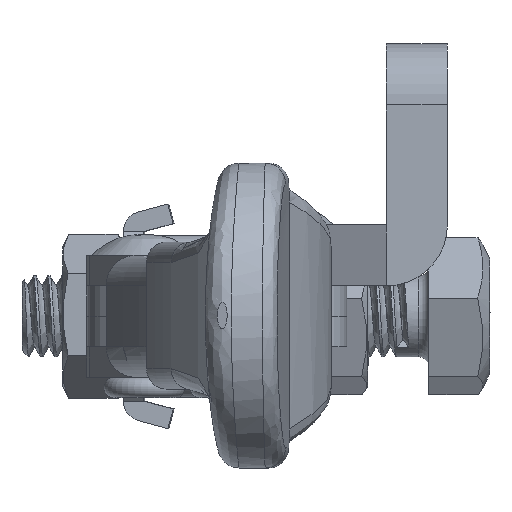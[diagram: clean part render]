
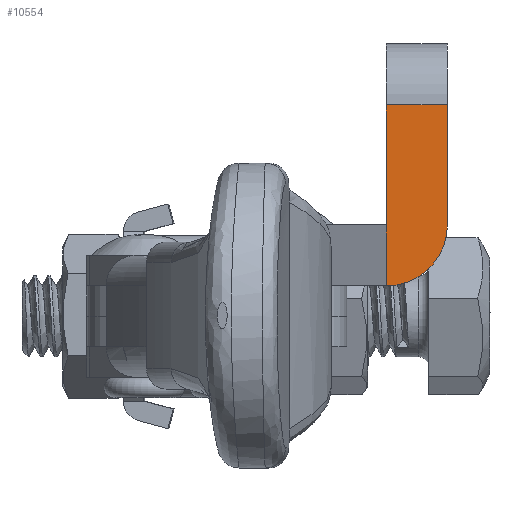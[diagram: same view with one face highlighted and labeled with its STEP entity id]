
A CAD part, left-side view. The second image highlights one B-rep face of the part: STEP entity #10554.
In plain terms, the highlighted planar face has unit normal (-1, 0, 0).
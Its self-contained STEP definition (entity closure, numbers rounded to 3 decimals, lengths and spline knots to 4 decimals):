
#1352=FACE_OUTER_BOUND('',#1958,.T.);
#1958=EDGE_LOOP('',(#8745,#8746,#8747,#8748,#8749));
#2551=LINE('',#30014,#3397);
#2752=LINE('',#33669,#3598);
#2753=LINE('',#33671,#3599);
#2754=LINE('',#33672,#3600);
#3397=VECTOR('',#12446,1000.);
#3598=VECTOR('',#12805,1000.);
#3599=VECTOR('',#12806,1000.);
#3600=VECTOR('',#12807,1000.);
#4013=CIRCLE('',#11252,3.);
#4441=VERTEX_POINT('',#28064);
#4667=VERTEX_POINT('',#30013);
#4798=VERTEX_POINT('',#32609);
#4824=VERTEX_POINT('',#33668);
#4825=VERTEX_POINT('',#33670);
#5885=EDGE_CURVE('',#4667,#4441,#2551,.T.);
#6127=EDGE_CURVE('',#4441,#4798,#4013,.T.);
#6203=EDGE_CURVE('',#4824,#4798,#2752,.T.);
#6204=EDGE_CURVE('',#4824,#4825,#2753,.T.);
#6205=EDGE_CURVE('',#4825,#4667,#2754,.T.);
#8745=ORIENTED_EDGE('',*,*,#5885,.T.);
#8746=ORIENTED_EDGE('',*,*,#6127,.T.);
#8747=ORIENTED_EDGE('',*,*,#6203,.F.);
#8748=ORIENTED_EDGE('',*,*,#6204,.T.);
#8749=ORIENTED_EDGE('',*,*,#6205,.T.);
#10104=PLANE('',#11284);
#10554=ADVANCED_FACE('',(#1352),#10104,.F.);
#11252=AXIS2_PLACEMENT_3D('',#32610,#12701,#12702);
#11284=AXIS2_PLACEMENT_3D('',#33667,#12803,#12804);
#12446=DIRECTION('',(0.,0.,-1.));
#12701=DIRECTION('center_axis',(-1.,0.,0.));
#12702=DIRECTION('ref_axis',(0.,0.,-1.));
#12803=DIRECTION('center_axis',(1.,0.,0.));
#12804=DIRECTION('ref_axis',(0.,0.,-1.));
#12805=DIRECTION('',(0.,0.,-1.));
#12806=DIRECTION('',(0.,1.,0.));
#12807=DIRECTION('',(0.,0.,-1.));
#28064=CARTESIAN_POINT('',(-11.9,3.,0.));
#30013=CARTESIAN_POINT('',(-11.9,3.,3.));
#30014=CARTESIAN_POINT('',(-11.9,3.,3.));
#32609=CARTESIAN_POINT('',(-11.9,0.,3.));
#32610=CARTESIAN_POINT('Origin',(-11.9,3.,3.));
#33667=CARTESIAN_POINT('Origin',(-11.9,0.,0.));
#33668=CARTESIAN_POINT('',(-11.9,0.,8.9));
#33669=CARTESIAN_POINT('',(-11.9,0.,0.));
#33670=CARTESIAN_POINT('',(-11.9,3.,8.9));
#33671=CARTESIAN_POINT('',(-11.9,0.,8.9));
#33672=CARTESIAN_POINT('',(-11.9,3.,0.));
